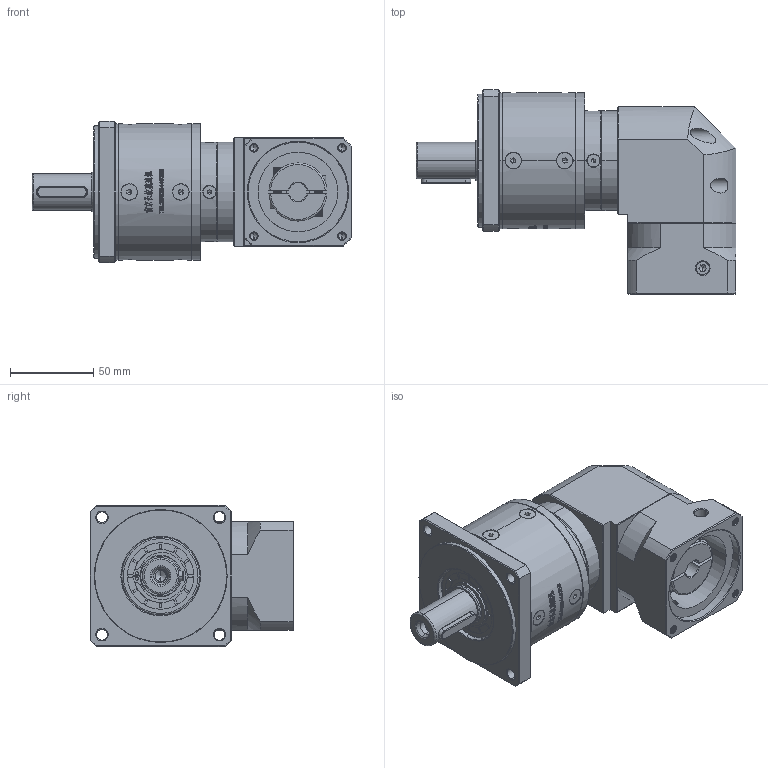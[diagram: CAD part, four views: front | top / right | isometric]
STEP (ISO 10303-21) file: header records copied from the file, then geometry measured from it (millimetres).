
FILE_DESCRIPTION (( 'STEP AP214' ), '1' );
FILE_NAME ('ZFR80-D22-L2-11-60-75-M5.step', '2022-05-08T14:53:28', ( '' ), ( 'Microsoft' ), 'SwSTEP 2.0', 'SolidWorks 2016', '' );
FILE_SCHEMA (( 'AUTOMOTIVE_DESIGN' ));
Length unit declared in the file: millimetre
Products named in the file (1): ZFR80-D22-L2-11-60-75-M5
Bounding box: 192.5 x 122.7 x 85 mm (x, y, z)
Volume: 802609.3 mm3; surface area: 104312.9 mm2
Topology: 17 solids, 18 shells, 3077 faces, 8179 edges, 5259 vertices
Faces by surface type: plane 1601, bspline 620, cylinder 468, cone 380, torus 8
Entity records: 165906 total; most frequent: CARTESIAN_POINT 61003, ORIENTED_EDGE 16266, DIRECTION 12342, EDGE_CURVE 8133, VERTEX_POINT 5259, LINE 4988, VECTOR 4988, AXIS2_PLACEMENT_3D 3677
